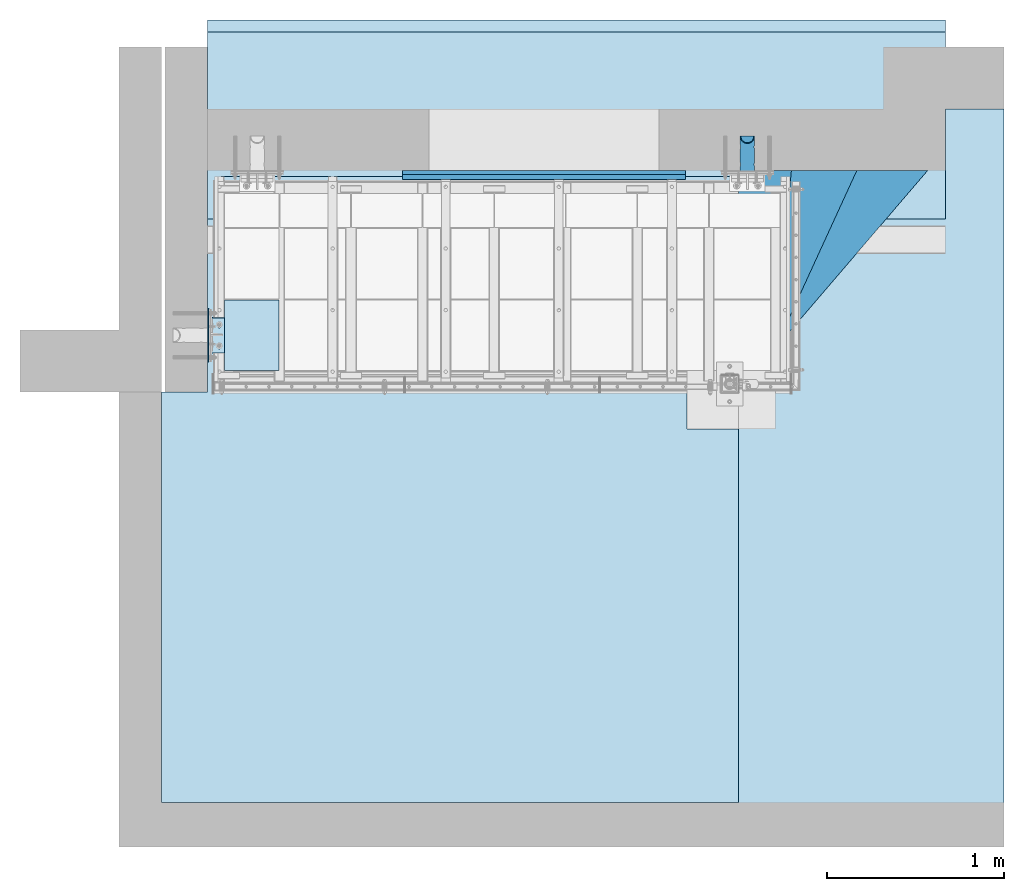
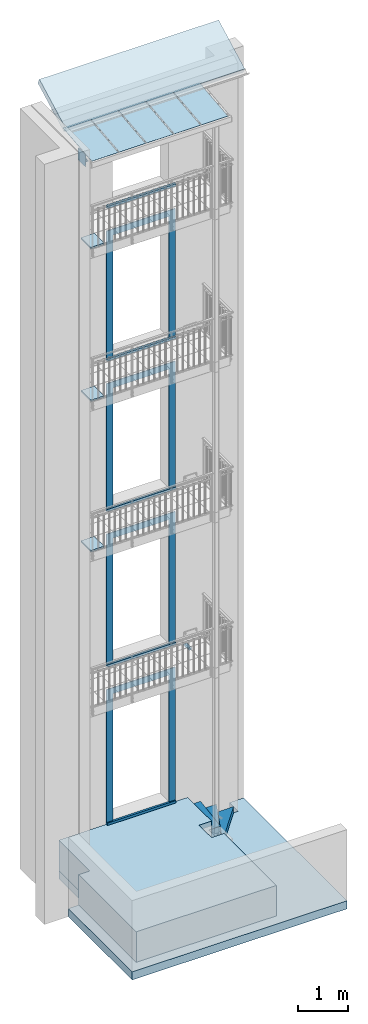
# One storey, part 54 of 162: 15 slabs, 10 plates, 1 beam, 19 openings.
"""IFC2X3 building model written with IfcOpenShell, lengths in millimetres."""

import ifcopenshell
import ifcopenshell.guid

model = None  # the IFC model being written
_history = None  # IfcOwnerHistory: only IFC2X3 demands one
_inside = {}  # id of a spatial element -> (the spatial element, [elements in it])
_under = {}  # id of a project, library or spatial element -> (it, [spatial elements below it])
_declared = {}  # id of a project -> (the project, [libraries it declares])
_typed = {}  # id of a type object -> (the type object, [elements of that type])
_made_of = {}  # id of a material, layer set ... -> (it, [elements and type objects made of it])


def new_model(schema):
    """Start an empty IFC model of exactly this schema.

    Asked for "IFC4X3", IfcOpenShell would pick the latest addendum, in which some entities
    have other attributes; the version numbers below select the first issue.
    IFC2X3 requires an IfcOwnerHistory on every rooted entity: one is made here for all.
    """
    global model, _history
    if schema == "IFC4X3":
        model = ifcopenshell.file(schema_version=(4, 3, 0, 0))
    else:
        model = ifcopenshell.file(schema=schema)
    _inside.clear()
    _under.clear()
    _declared.clear()
    _typed.clear()
    _made_of.clear()
    _history = None
    if model.schema == "IFC2X3":
        org = make("IfcOrganization", Name="unknown")
        user = make(
            "IfcPersonAndOrganization",
            ThePerson=make("IfcPerson", FamilyName="unknown"),
            TheOrganization=org,
        )
        app = make(
            "IfcApplication",
            ApplicationDeveloper=org,
            Version="unknown",
            ApplicationFullName="unknown",
            ApplicationIdentifier="unknown",
        )
        _history = make(
            "IfcOwnerHistory",
            OwningUser=user,
            OwningApplication=app,
            ChangeAction="ADDED",
            CreationDate=0,
        )
    return model


def make(cls, **values):
    """One entity of the class cls with the attributes given. An attribute that is None is left unset."""
    return model.create_entity(
        cls, **{name: value for name, value in values.items() if value is not None}
    )


def entity(cls, *values):
    """Any entity or typed value of the class cls, its attributes in the order of the schema. None: left unset."""
    e = model.create_entity(cls)
    for i, value in enumerate(values):
        if value is not None:
            e[i] = value
    return e


def rooted(cls, **values):
    """An entity with a GlobalId (a new one), such as an element, a storey or a relation."""
    return make(cls, GlobalId=ifcopenshell.guid.new(), OwnerHistory=_history, **values)


def si_unit(unit_type, name, prefix=None):
    """IfcSIUnit, for example si_unit("LENGTHUNIT", "METRE", prefix="MILLI")."""
    return make("IfcSIUnit", UnitType=unit_type, Prefix=prefix, Name=name)


def converted_unit(unit_type, name, factor, base, dimensions=None, offset=None):
    """IfcConversionBasedUnit, such as the inch: factor (a typed value) times the base unit."""
    return make(
        "IfcConversionBasedUnit"
        if offset is None
        else "IfcConversionBasedUnitWithOffset",
        ConversionOffset=offset,
        Dimensions=None
        if dimensions is None
        else entity("IfcDimensionalExponents", *dimensions),
        UnitType=unit_type,
        Name=name,
        ConversionFactor=make(
            "IfcMeasureWithUnit", ValueComponent=factor, UnitComponent=base
        ),
    )


def assignment(units):
    """IfcUnitAssignment: the units of a project."""
    return None if units is None else make("IfcUnitAssignment", Units=units)


def point(xyz):
    """IfcCartesianPoint."""
    return None if xyz is None else make("IfcCartesianPoint", Coordinates=xyz)


def direction(xyz):
    """IfcDirection."""
    return None if xyz is None else make("IfcDirection", DirectionRatios=xyz)


def frame(location, z_axis=None, x_axis=None):
    """IfcAxis2Placement3D, a coordinate frame: its origin and axes. An axis left out is left unset."""
    return make(
        "IfcAxis2Placement3D",
        Location=point(location),
        Axis=direction(z_axis),
        RefDirection=direction(x_axis),
    )


def frame_2d(location, x_axis=None):
    """IfcAxis2Placement2D, a coordinate frame in the plane: its origin and x axis."""
    return make(
        "IfcAxis2Placement2D", Location=point(location), RefDirection=direction(x_axis)
    )


def origin():
    """The frame at (0, 0, 0) with its axes left unset."""
    return frame((0.0, 0.0, 0.0))


def origin_with_axes():
    """The frame at (0, 0, 0) with the z axis (0, 0, 1) and the x axis (1, 0, 0) written out."""
    return frame((0.0, 0.0, 0.0), z_axis=(0.0, 0.0, 1.0), x_axis=(1.0, 0.0, 0.0))


def origin_2d():
    """The frame at (0, 0) in the plane with its x axis left unset."""
    return frame_2d((0.0, 0.0))


def place(relative_to, where):
    """IfcLocalPlacement: puts the frame where relative to a parent placement (None: the world)."""
    return make(
        "IfcLocalPlacement", PlacementRelTo=relative_to, RelativePlacement=where
    )


def context(
    kind, dimensions, precision=None, world=None, true_north=None, identifier=None
):
    """IfcGeometricRepresentationContext, for example the 3D "Model" context."""
    return make(
        "IfcGeometricRepresentationContext",
        ContextIdentifier=identifier,
        ContextType=kind,
        CoordinateSpaceDimension=dimensions,
        Precision=precision,
        WorldCoordinateSystem=world,
        TrueNorth=true_north,
    )


def project(units=None, contexts=None):
    """IfcProject with its units and contexts."""
    return rooted(
        "IfcProject",
        Name="project",
        RepresentationContexts=contexts,
        UnitsInContext=assignment(units),
    )


def spatial(cls, under=None, at=None, **own):
    """A site, building, storey or space (cls), placed at a placement, below another one or the project."""
    s = rooted(cls, ObjectPlacement=at, **own)
    if under is not None:
        _under.setdefault(under.id(), (under, []))[1].append(s)
    return s


def polyline(points):
    """IfcPolyline through the points."""
    return make("IfcPolyline", Points=[point(p) for p in points])


def circle_curve(where, radius):
    """IfcCircle in the frame where."""
    return make("IfcCircle", Position=where, Radius=radius)


def line_curve(start, along, magnitude):
    """IfcLine from a point along a vector."""
    return make(
        "IfcLine",
        Pnt=point(start),
        Dir=make("IfcVector", Orientation=direction(along), Magnitude=magnitude),
    )


def trimmed(basis, trim1, trim2, sense, master):
    """IfcTrimmedCurve: the piece of a basis curve between two trims."""
    return make(
        "IfcTrimmedCurve",
        BasisCurve=basis,
        Trim1=trim1,
        Trim2=trim2,
        SenseAgreement=sense,
        MasterRepresentation=master,
    )


def segment(curve, same_sense, transition):
    """IfcCompositeCurveSegment."""
    return make(
        "IfcCompositeCurveSegment",
        Transition=transition,
        SameSense=same_sense,
        ParentCurve=curve,
    )


def composite_curve(segments, self_intersect=None):
    """IfcCompositeCurve: segments joined end to end."""
    return make("IfcCompositeCurve", Segments=segments, SelfIntersect=self_intersect)


def profile(cls, at=None, kind="AREA", **sizes):
    """A parametric profile (cls). Its sizes go by their IFC names, for example OverallWidth=200.0."""
    return make(cls, ProfileType=kind, Position=at, **sizes)


def circle(**sizes):
    """IfcCircleProfileDef."""
    return profile("IfcCircleProfileDef", **sizes)


def hollow_circle(**sizes):
    """IfcCircleHollowProfileDef."""
    return profile("IfcCircleHollowProfileDef", **sizes)


def outline(outer, holes=None, kind="AREA"):
    """IfcArbitraryClosedProfileDef: a profile drawn as a closed curve; with holes, ...WithVoids."""
    if holes is None:
        return make("IfcArbitraryClosedProfileDef", ProfileType=kind, OuterCurve=outer)
    return make(
        "IfcArbitraryProfileDefWithVoids",
        ProfileType=kind,
        OuterCurve=outer,
        InnerCurves=holes,
    )


def extrude(swept, where, along, depth):
    """IfcExtrudedAreaSolid: the profile swept, set in the frame where, extruded along a direction by depth."""
    return make(
        "IfcExtrudedAreaSolid",
        SweptArea=swept,
        Position=where,
        ExtrudedDirection=direction(along),
        Depth=depth,
    )


def shape(context_of_items, identifier, shape_type, items):
    """IfcShapeRepresentation: the items that make up one representation, for example the "Body"."""
    return make(
        "IfcShapeRepresentation",
        ContextOfItems=context_of_items,
        RepresentationIdentifier=identifier,
        RepresentationType=shape_type,
        Items=items,
    )


def material(Name=None, Category=None):
    """IfcMaterial."""
    return make("IfcMaterial", Name=Name, Category=Category)


def layer(
    of_material, thickness, ventilated=None, Name=None, Category=None, Priority=None
):
    """IfcMaterialLayer: one layer of a wall or slab, of a material (None: an air gap)."""
    return make(
        "IfcMaterialLayer",
        Material=of_material,
        LayerThickness=thickness,
        IsVentilated=ventilated,
        Name=Name,
        Category=Category,
        Priority=Priority,
    )


def layer_set(layers, Name=None):
    """IfcMaterialLayerSet."""
    return make("IfcMaterialLayerSet", MaterialLayers=layers, LayerSetName=Name)


def made_of(thing, what):
    """Note that an element or type object is made of a material, layer set ...; save() writes the relation."""
    if what is not None:
        _made_of.setdefault(what.id(), (what, []))[1].append(thing)
    return thing


def element(
    cls,
    number,
    at=None,
    inside=None,
    cuts=None,
    type_object=None,
    material=None,
    context=None,
    identifier="Body",
    shape_type=None,
    held_by="IfcProductDefinitionShape",
    body=None,
    shapes=None,
    **own,
):
    """One element of the class cls, such as IfcWall. Its Tag is "e" and its number.

    at: its placement. inside: the storey or other place that contains it. cuts: it is an
    opening in that element (IfcRelVoidsElement). A single representation is given by context,
    identifier, shape_type and body (its items); several are given by shapes. held_by: the class
    of the entity that holds the representations. save() writes the other relations.
    """
    e = rooted(cls, Tag="e%d" % number, ObjectPlacement=at, **own)
    if body is not None:
        shapes = [shape(context, identifier, shape_type, body)]
    if shapes is not None:
        e.Representation = make(held_by, Representations=shapes)
    if inside is not None:
        _inside.setdefault(inside.id(), (inside, []))[1].append(e)
    if cuts is not None:
        rooted(
            "IfcRelVoidsElement", RelatingBuildingElement=cuts, RelatedOpeningElement=e
        )
    if type_object is not None:
        _typed.setdefault(type_object.id(), (type_object, []))[1].append(e)
    return made_of(e, material)


def aggregate(whole, parts):
    """IfcRelAggregates: a whole, such as a stair, and the parts it consists of."""
    return rooted("IfcRelAggregates", RelatingObject=whole, RelatedObjects=parts)


def save(model, path):
    """Write the relations noted so far, then the file.

    IfcRelAggregates (storeys below a building ...), IfcRelContainedInSpatialStructure (elements
    in a storey), IfcRelDefinesByType, IfcRelAssociatesMaterial and IfcRelDeclares: one each for
    every whole, place, type object, material and project.
    """
    for whole, parts in _under.values():
        aggregate(whole, parts)
    for where, things in _inside.values():
        rooted(
            "IfcRelContainedInSpatialStructure",
            RelatedElements=things,
            RelatingStructure=where,
        )
    for kind, things in _typed.values():
        rooted("IfcRelDefinesByType", RelatedObjects=things, RelatingType=kind)
    for what, things in _made_of.values():
        rooted("IfcRelAssociatesMaterial", RelatedObjects=things, RelatingMaterial=what)
    for by, libraries in _declared.values():
        rooted("IfcRelDeclares", RelatingContext=by, RelatedDefinitions=libraries)
    model.write(path)


model = new_model("IFC2X3")

# Units and contexts
model_context = context("Model", 3, precision=1e-09, world=origin_with_axes())
ifc_project = project(units=[si_unit("LENGTHUNIT", "METRE", prefix="MILLI"), si_unit("AREAUNIT", "SQUARE_METRE"), si_unit("VOLUMEUNIT", "CUBIC_METRE"), converted_unit("PLANEANGLEUNIT", "DEGREE", entity("IfcPlaneAngleMeasure", 0.01745329), si_unit("PLANEANGLEUNIT", "RADIAN"), dimensions=[0, 0, 0, 0, 0, 0, 0])], contexts=[model_context])

# Site, building, storey
site_placement = place(None, origin_with_axes())
site = spatial("IfcSite", under=ifc_project, at=site_placement, Name="Hermannstra?e 1a, 60318 Frankfurt", CompositionType="ELEMENT")
building_placement = place(site_placement, origin_with_axes())
building = spatial("IfcBuilding", under=site, at=building_placement, Name="Struktur 1", CompositionType="ELEMENT")
storey_placement = place(building_placement, origin_with_axes())
storey = spatial("IfcBuildingStorey", under=building, at=storey_placement, Name="Default Storey", CompositionType="ELEMENT", Elevation=0.0)

# Beam, openings
ifc_material_1 = material(Name="S235JR")
beam_placement = place(None, frame((5573.310071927, 2730.610081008, 3645.0), z_axis=(0.0, 1.0, 0.0), x_axis=(0.0, 0.0, 1.0)))
beam = element("IfcBeam", 1, at=beam_placement, inside=storey, material=ifc_material_1, Name="-", ObjectType="-", context=model_context, shape_type="SweptSolid", body=[
    extrude(hollow_circle(Radius=41.25, WallThickness=5.0, at=origin_2d()), origin(), (0.0, 0.0, 1.0), 200.0),
])
opening_1_placement = place(beam_placement, frame((-36.368270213, -141.35, 236.366855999), z_axis=(0.0, -1.0, 0.0), x_axis=(0.707106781, 0.0, -0.707106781)))
element("IfcOpeningElement", 2, at=opening_1_placement, cuts=beam, ObjectType="Opening", context=model_context, shape_type="SweptSolid", body=[
    extrude(outline(polyline([(0.0, 0.0), (179.585201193, 0.0), (64.987133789, 114.598067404), (0.0, 0.0)])), origin(), (0.0, 0.0, -1.0), 282.7),
])
opening_2_placement = place(beam_placement, frame((0.0, -32.727655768, 100.0), z_axis=(0.0, -1.0, 0.0), x_axis=(0.0, 0.0, -1.0)))
element("IfcOpeningElement", 3, at=opening_2_placement, cuts=beam, ObjectType="Opening", context=model_context, shape_type="SweptSolid", body=[
    extrude(circle(Radius=15.001, at=frame_2d((60.0, 0.0), x_axis=(1.0, 0.0))), origin(), (0.0, 0.0, 1.0), 9.022344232),
])
opening_3_placement = place(beam_placement, frame((0.0, -32.727655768, 100.0), z_axis=(0.0, -1.0, 0.0), x_axis=(0.0, 0.0, -1.0)))
element("IfcOpeningElement", 4, at=opening_3_placement, cuts=beam, ObjectType="Opening", context=model_context, shape_type="SweptSolid", body=[
    extrude(circle(Radius=15.001, at=frame_2d((-40.0, 0.0), x_axis=(1.0, 0.0))), origin(), (0.0, 0.0, 1.0), 9.022344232),
])
opening_4_placement = place(beam_placement, frame((0.0, 32.727655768, 55.001), z_axis=(0.0, -1.0, 0.0), x_axis=(1.0, 0.0, 0.0)))
element("IfcOpeningElement", 5, at=opening_4_placement, cuts=beam, ObjectType="Opening", context=model_context, shape_type="SweptSolid", body=[
    extrude(circle(Radius=15.001, at=frame_2d((0.0, -15.001), x_axis=(1.0, 0.0))), origin(), (0.0, 0.0, -1.0), 9.022344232),
])
opening_5_placement = place(beam_placement, frame((0.0, 32.727655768, 155.001), z_axis=(0.0, -1.0, 0.0), x_axis=(1.0, 0.0, 0.0)))
element("IfcOpeningElement", 6, at=opening_5_placement, cuts=beam, ObjectType="Opening", context=model_context, shape_type="SweptSolid", body=[
    extrude(circle(Radius=15.001, at=frame_2d((0.0, -15.001), x_axis=(1.0, 0.0))), origin(), (0.0, 0.0, -1.0), 9.022344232),
])

# Plates
ifc_material_2 = material(Name="BWS")
ifc_layer_1 = layer(ifc_material_2, 40.0)
ifc_layer_set_1 = layer_set([ifc_layer_1], Name="BWS")
for number, where, z_axis, x_axis in (
    (7, (2526.80936482, 2005.609373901, 7774.0), (0.0, 0.0, -1.0), (1.0, 0.0, 0.0)),
    (8, (2526.80936482, 2005.609373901, 11473.999), (0.0, 0.0, -1.0), (1.0, 0.0, 0.0)),
    (9, (2526.80936482, 2005.609373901, 15230.999), (0.0, 0.0, -1.0), (1.0, 0.0, 0.0)),
):
    element("IfcPlate", number, at=place(None, frame(where, z_axis=z_axis, x_axis=x_axis)), inside=storey, material=ifc_layer_set_1, Name="-", ObjectType="-", context=model_context, shape_type="SweptSolid", body=[
        extrude(outline(polyline([(91.0, 0.0), (400.0, 0.0), (400.0, 400.0), (91.0, 400.0), (91.0, 0.0)])), origin_with_axes(), (0.0, 0.0, 1.0), 40.0),
    ])

# Plate, openings
ifc_material_3 = material(Name="Thermostop")
ifc_layer_2 = layer(ifc_material_3, 6.0)
ifc_layer_set_2 = layer_set([ifc_layer_2], Name="Thermostop")
plate_1_placement = place(None, frame((2523.30936482, 1805.610081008, 17360.045442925), z_axis=(1.0, 0.0, 0.0), x_axis=(0.0, 1.0, 0.0)))
plate_1 = element("IfcPlate", 10, at=plate_1_placement, inside=storey, material=ifc_layer_set_2, Name="-", ObjectType="-", context=model_context, shape_type="SweptSolid", body=[
    extrude(outline(polyline([(-150.0, -150.0), (150.0, -150.0), (150.0, 150.0), (-150.0, 150.0), (-150.0, -150.0)])), origin_with_axes(), (0.0, 0.0, 1.0), 6.0),
])
opening_6_placement = place(plate_1_placement, frame((0.0, 0.0, -0.5), z_axis=(0.0, 0.0, 1.0), x_axis=(1.0, 0.0, 0.0)))
element("IfcOpeningElement", 11, at=opening_6_placement, cuts=plate_1, ObjectType="Opening", context=model_context, shape_type="SweptSolid", body=[
    extrude(circle(Radius=10.001, at=frame_2d((125.0, 125.0), x_axis=(1.0, 0.0))), origin(), (0.0, 0.0, 1.0), 7.0),
])
opening_7_placement = place(plate_1_placement, frame((0.0, 0.0, -0.5), z_axis=(0.0, 0.0, 1.0), x_axis=(1.0, 0.0, 0.0)))
element("IfcOpeningElement", 12, at=opening_7_placement, cuts=plate_1, ObjectType="Opening", context=model_context, shape_type="SweptSolid", body=[
    extrude(circle(Radius=10.001, at=frame_2d((-125.0, 125.0), x_axis=(1.0, 0.0))), origin(), (0.0, 0.0, 1.0), 7.0),
])
opening_8_placement = place(plate_1_placement, frame((0.0, 0.0, -0.5), z_axis=(0.0, 0.0, 1.0), x_axis=(1.0, 0.0, 0.0)))
element("IfcOpeningElement", 13, at=opening_8_placement, cuts=plate_1, ObjectType="Opening", context=model_context, shape_type="SweptSolid", body=[
    extrude(circle(Radius=10.001, at=frame_2d((125.0, -125.0), x_axis=(1.0, 0.0))), origin(), (0.0, 0.0, 1.0), 7.0),
])
opening_9_placement = place(plate_1_placement, frame((0.0, 0.0, -0.5), z_axis=(0.0, 0.0, 1.0), x_axis=(1.0, 0.0, 0.0)))
element("IfcOpeningElement", 14, at=opening_9_placement, cuts=plate_1, ObjectType="Opening", context=model_context, shape_type="SweptSolid", body=[
    extrude(circle(Radius=10.001, at=frame_2d((-125.0, -125.0), x_axis=(1.0, 0.0))), origin(), (0.0, 0.0, 1.0), 7.0),
])

ifc_layer_3 = layer(ifc_material_1, 10.0)
ifc_layer_set_3 = layer_set([ifc_layer_3], Name="S235JR")
plate_2_placement = place(None, frame((2579.309364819, 1806.132723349, 17300.072833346), z_axis=(0.0, -0.104528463, 0.994521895), x_axis=(0.0, 0.994521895, 0.104528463)))
plate_2 = element("IfcPlate", 15, at=plate_2_placement, inside=storey, material=ifc_layer_set_3, Name="-", ObjectType="-", context=model_context, shape_type="SweptSolid", body=[
    extrude(outline(polyline([(-100.0, -40.0), (100.0, -40.0), (100.0, 40.0), (-100.0, 40.0), (-100.0, -40.0)])), origin_with_axes(), (0.0, 0.0, 1.0), 10.0),
])
opening_10_placement = place(plate_2_placement, frame((0.0, -10.0, -0.5), z_axis=(0.0, 0.0, 1.0), x_axis=(1.0, 0.0, 0.0)))
element("IfcOpeningElement", 16, at=opening_10_placement, cuts=plate_2, ObjectType="Opening", context=model_context, shape_type="SweptSolid", body=[
    extrude(circle(Radius=7.501, at=frame_2d((60.0, 0.0), x_axis=(1.0, 0.0))), origin(), (0.0, 0.0, 1.0), 11.0),
])
opening_11_placement = place(plate_2_placement, frame((0.0, -10.0, -0.5), z_axis=(0.0, 0.0, 1.0), x_axis=(1.0, 0.0, 0.0)))
element("IfcOpeningElement", 17, at=opening_11_placement, cuts=plate_2, ObjectType="Opening", context=model_context, shape_type="SweptSolid", body=[
    extrude(circle(Radius=7.501, at=frame_2d((-60.0, 0.0), x_axis=(1.0, 0.0))), origin(), (0.0, 0.0, 1.0), 11.0),
])
opening_12_placement = place(plate_2_placement, frame((-60.0, -10.0, -0.5), z_axis=(0.0, 0.0, 1.0), x_axis=(1.0, 0.0, 0.0)))
element("IfcOpeningElement", 18, at=opening_12_placement, cuts=plate_2, ObjectType="Opening", context=model_context, shape_type="SweptSolid", body=[
    extrude(outline(composite_curve([segment(trimmed(line_curve((110.5, -8.001), (1.0, 0.0), 19.0), [point((110.5, -8.001))], [point((129.5, -8.001))], True, "CARTESIAN"), True, "CONTINUOUS"), segment(trimmed(circle_curve(frame_2d((129.5, 0.0), x_axis=(1.0, 0.0)), 8.001), [point((129.5, -8.001))], [point((129.5, 8.001))], True, "CARTESIAN"), True, "CONTINUOUS"), segment(trimmed(line_curve((129.5, 8.001), (-1.0, 0.0), 19.0), [point((129.5, 8.001))], [point((110.5, 8.001))], True, "CARTESIAN"), True, "CONTINUOUS"), segment(trimmed(circle_curve(frame_2d((110.5, 0.0), x_axis=(1.0, 0.0)), 8.001), [point((110.5, 8.001))], [point((110.5, -8.001))], True, "CARTESIAN"), True, "CONTINUOUS")], self_intersect=False)), origin(), (0.0, 0.0, 1.0), 11.0),
])
opening_13_placement = place(plate_2_placement, frame((-60.0, -10.0, -0.5), z_axis=(0.0, 0.0, 1.0), x_axis=(1.0, 0.0, 0.0)))
element("IfcOpeningElement", 19, at=opening_13_placement, cuts=plate_2, ObjectType="Opening", context=model_context, shape_type="SweptSolid", body=[
    extrude(outline(composite_curve([segment(trimmed(line_curve((-9.5, -8.001), (1.0, 0.0), 19.0), [point((-9.5, -8.001))], [point((9.5, -8.001))], True, "CARTESIAN"), True, "CONTINUOUS"), segment(trimmed(circle_curve(frame_2d((9.5, 0.0), x_axis=(1.0, 0.0)), 8.001), [point((9.5, -8.001))], [point((9.5, 8.001))], True, "CARTESIAN"), True, "CONTINUOUS"), segment(trimmed(line_curve((9.5, 8.001), (-1.0, 0.0), 19.0), [point((9.5, 8.001))], [point((-9.5, 8.001))], True, "CARTESIAN"), True, "CONTINUOUS"), segment(trimmed(circle_curve(frame_2d((-9.5, 0.0), x_axis=(1.0, 0.0)), 8.001), [point((-9.5, 8.001))], [point((-9.5, -8.001))], True, "CARTESIAN"), True, "CONTINUOUS")], self_intersect=False)), origin(), (0.0, 0.0, 1.0), 11.0),
])

# Plates
ifc_material_4 = material(Name="Glas")
ifc_layer_4 = layer(ifc_material_4, 8.76)
ifc_layer_set_4 = layer_set([ifc_layer_4], Name="Glas")
for number, where, z_axis, x_axis in (
    (20, (2598.80936482, 2692.714729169, 17515.687045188), (0.0, 0.104528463, -0.994521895), (1.0, 0.0, 0.0)),
    (21, (3237.80936482, 2692.714729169, 17515.687045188), (0.0, 0.104528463, -0.994521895), (1.0, 0.0, 0.0)),
    (22, (3876.80936482, 2692.714729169, 17515.687045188), (0.0, 0.104528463, -0.994521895), (1.0, 0.0, 0.0)),
    (23, (4515.80936482, 2692.714729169, 17515.687045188), (0.0, 0.104528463, -0.994521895), (1.0, 0.0, 0.0)),
    (24, (5154.80936482, 2692.714729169, 17515.687045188), (0.0, 0.104528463, -0.994521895), (1.0, 0.0, 0.0)),
):
    element("IfcPlate", number, at=place(None, frame(where, z_axis=z_axis, x_axis=x_axis)), inside=storey, material=ifc_layer_set_4, Name="-", ObjectType="-", context=model_context, shape_type="SweptSolid", body=[
        extrude(outline(polyline([(0.0, -10.0), (623.0, -10.0), (623.0, 1154.99558045), (0.0, 1154.99558045), (0.0, -10.0)])), origin_with_axes(), (0.0, 0.0, 1.0), 8.76),
    ])

# Slab, opening
ifc_material_5 = material(Name="C25/30")
ifc_layer_5 = layer(ifc_material_5, 20.0)
ifc_layer_set_5 = layer_set([ifc_layer_5], Name="C25/30")
slab_1_placement = place(None, frame((4423.30836482, 2735.609373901, 5552.4995), z_axis=(0.0, -1.0, 0.0), x_axis=(1.0, 0.0, 0.0)))
slab_1 = element("IfcSlab", 25, at=slab_1_placement, inside=storey, material=ifc_layer_set_5, Name="-", ObjectType="-", context=model_context, shape_type="SweptSolid", body=[
    extrude(outline(polyline([(-800.0, -1597.5005), (800.0, -1597.5005), (800.0, 1597.5005), (-800.0, 1597.5005), (-800.0, -1597.5005)])), origin_with_axes(), (0.0, 0.0, 1.0), 20.0),
])
opening_14_placement = place(slab_1_placement, frame((0.0, 0.0, -0.1), z_axis=(0.0, 0.0, 1.0), x_axis=(1.0, 0.0, 0.0)))
element("IfcOpeningElement", 26, at=opening_14_placement, cuts=slab_1, ObjectType="Opening", context=model_context, shape_type="SweptSolid", body=[
    extrude(outline(polyline([(-650.002, -1825.587801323), (650.001, -1825.587801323), (650.001, 1447.5025), (-650.002, 1447.5025), (-650.002, -1825.587801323)])), origin(), (0.0, 0.0, 1.0), 20.2),
])

slab_2_placement = place(None, frame((4423.30836482, 2735.609373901, 9314.9995), z_axis=(0.0, -1.0, 0.0), x_axis=(1.0, 0.0, 0.0)))
slab_2 = element("IfcSlab", 27, at=slab_2_placement, inside=storey, material=ifc_layer_set_5, Name="-", ObjectType="-", context=model_context, shape_type="SweptSolid", body=[
    extrude(outline(polyline([(-800.0, -1535.0005), (800.0, -1535.0005), (800.0, 1535.0005), (-800.0, 1535.0005), (-800.0, -1535.0005)])), origin_with_axes(), (0.0, 0.0, 1.0), 20.0),
])
opening_15_placement = place(slab_2_placement, frame((0.0, 0.0, -0.1), z_axis=(0.0, 0.0, 1.0), x_axis=(1.0, 0.0, 0.0)))
element("IfcOpeningElement", 28, at=opening_15_placement, cuts=slab_2, ObjectType="Opening", context=model_context, shape_type="SweptSolid", body=[
    extrude(outline(polyline([(-650.002, -1726.636255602), (650.001, -1726.636255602), (650.001, 1385.0025), (-650.002, 1385.0025), (-650.002, -1726.636255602)])), origin(), (0.0, 0.0, 1.0), 20.2),
])

slab_3_placement = place(None, frame((4423.30836482, 2735.609373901, 13043.4995), z_axis=(0.0, -1.0, 0.0), x_axis=(1.0, 0.0, 0.0)))
slab_3 = element("IfcSlab", 29, at=slab_3_placement, inside=storey, material=ifc_layer_set_5, Name="-", ObjectType="-", context=model_context, shape_type="SweptSolid", body=[
    extrude(outline(polyline([(-800.0, -1563.5005), (800.0, -1563.5005), (800.0, 1563.5005), (-800.0, 1563.5005), (-800.0, -1563.5005)])), origin_with_axes(), (0.0, 0.0, 1.0), 20.0),
])
opening_16_placement = place(slab_3_placement, frame((0.0, 0.0, -0.1), z_axis=(0.0, 0.0, 1.0), x_axis=(1.0, 0.0, 0.0)))
element("IfcOpeningElement", 30, at=opening_16_placement, cuts=slab_3, ObjectType="Opening", context=model_context, shape_type="SweptSolid", body=[
    extrude(outline(polyline([(-650.002, -1771.978279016), (650.001, -1771.978279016), (650.001, 1413.5025), (-650.002, 1413.5025), (-650.002, -1771.978279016)])), origin(), (0.0, 0.0, 1.0), 20.2),
])

# Slabs
ifc_layer_6 = layer(ifc_material_5, 50.0)
ifc_layer_set_6 = layer_set([ifc_layer_6], Name="C25/30")
for number, where, z_axis, x_axis in (
    (31, (4423.30836482, 2735.609373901, 11450.0), (0.0, -1.0, 0.0), (1.0, 0.0, 0.0)),
    (32, (4423.30836482, 2735.609373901, 15207.0), (0.0, -1.0, 0.0), (1.0, 0.0, 0.0)),
    (33, (4423.30836482, 2735.609373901, 3925.0), (0.0, -1.0, 0.0), (1.0, 0.0, 0.0)),
    (34, (4423.30836482, 2735.609373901, 29.999), (0.0, -1.0, 0.0), (1.0, 0.0, 0.0)),
):
    element("IfcSlab", number, at=place(None, frame(where, z_axis=z_axis, x_axis=x_axis)), inside=storey, material=ifc_layer_set_6, Name="-", ObjectType="-", context=model_context, shape_type="SweptSolid", body=[
        extrude(outline(polyline([(-800.0, -30.0), (800.0, -30.0), (800.0, 30.0), (-800.0, 30.0), (-800.0, -30.0)])), origin_with_axes(), (0.0, 0.0, 1.0), 50.0),
    ])

# Slab, openings
ifc_layer_7 = layer(ifc_material_5, 750.0)
ifc_layer_set_7 = layer_set([ifc_layer_7], Name="C25/30")
slab_4_placement = place(None, frame((3893.30786482, 950.608873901, -750.0), z_axis=(0.0, 0.0, 1.0), x_axis=(1.0, 0.0, 0.0)))
slab_4 = element("IfcSlab", 35, at=slab_4_placement, inside=storey, material=ifc_layer_set_7, Name="-", ObjectType="-", context=model_context, shape_type="SweptSolid", body=[
    extrude(outline(polyline([(-1630.0005, -1785.0005), (1630.0005, -1785.0005), (1630.0005, 1785.0005), (-1630.0005, 1785.0005), (-1630.0005, -1785.0005)])), origin_with_axes(), (0.0, 0.0, 1.0), 750.0),
])
opening_17_placement = place(slab_4_placement, frame((0.0, 0.0, -0.1), z_axis=(0.0, 0.0, 1.0), x_axis=(1.0, 0.0, 0.0)))
element("IfcOpeningElement", 36, at=opening_17_placement, cuts=slab_4, ObjectType="Opening", context=model_context, shape_type="SweptSolid", body=[
    extrude(outline(polyline([(-2393.858873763, 534.9995), (-1369.9985, 534.9995), (-1369.9985, 2309.86964466), (-2393.858873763, 2309.86964466), (-2393.858873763, 534.9995)])), origin(), (0.0, 0.0, 1.0), 750.2),
])
opening_18_placement = place(slab_4_placement, frame((0.0, 0.0, -0.1), z_axis=(0.0, 0.0, 1.0), x_axis=(1.0, 0.0, 0.0)))
element("IfcOpeningElement", 37, at=opening_18_placement, cuts=slab_4, ObjectType="Opening", context=model_context, shape_type="SweptSolid", body=[
    extrude(outline(polyline([(1339.9995, 324.9995), (1840.0015, 324.9995), (1840.0015, 825.0015), (1339.9995, 825.0015), (1339.9995, 324.9995)])), origin(), (0.0, 0.0, 1.0), 750.2),
])

# Slabs
ifc_layer_8 = layer(ifc_material_5, 550.0)
ifc_layer_set_8 = layer_set([ifc_layer_8], Name="C25/30")
slab_5_placement = place(None, frame((5523.30836482, 2735.609373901, -750.0), z_axis=(0.0, 0.0, 1.0), x_axis=(1.0, 0.0, 0.0)))
element("IfcSlab", 38, at=slab_5_placement, inside=storey, material=ifc_layer_set_8, Name="-", ObjectType="-", context=model_context, shape_type="SweptSolid", body=[
    extrude(outline(polyline([(0.0, -960.0), (210.0, -960.0), (298.572323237, 0.0), (0.0, 0.0), (0.0, -960.0)])), origin_with_axes(), (0.0, 0.0, 1.0), 550.0),
])
ifc_layer_9 = layer(ifc_material_5, 350.0)
ifc_layer_set_9 = layer_set([ifc_layer_9], Name="C25/30")
slab_6_placement = place(None, frame((6191.117654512, 2735.609373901, -750.0), z_axis=(0.0, 0.0, 1.0), x_axis=(1.0, 0.0, 0.0)))
element("IfcSlab", 39, at=slab_6_placement, inside=storey, material=ifc_layer_set_9, Name="-", ObjectType="-", context=model_context, shape_type="SweptSolid", body=[
    extrude(outline(polyline([(0.0, 0.0), (-369.236966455, 0.0), (-457.809289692, -960.0), (-440.309289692, -960.0), (0.0, 0.0)])), origin_with_axes(), (0.0, 0.0, 1.0), 350.0),
])
ifc_layer_10 = layer(ifc_material_5, 150.0)
ifc_layer_set_10 = layer_set([ifc_layer_10], Name="C25/30")
slab_7_placement = place(None, frame((5750.80836482, 1775.609373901, -750.0), z_axis=(0.0, 0.0, 1.0), x_axis=(1.0, 0.0, 0.0)))
element("IfcSlab", 40, at=slab_7_placement, inside=storey, material=ifc_layer_set_10, Name="-", ObjectType="-", context=model_context, shape_type="SweptSolid", body=[
    extrude(outline(polyline([(0.0, 0.0), (17.5, 0.0), (840.090991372, 960.0), (440.309289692, 960.0), (0.0, 0.0)])), origin_with_axes(), (0.0, 0.0, 1.0), 150.0),
])
ifc_layer_11 = layer(ifc_material_5, 200.0)
ifc_layer_set_11 = layer_set([ifc_layer_11], Name="C25/30")
slab_8_placement = place(None, frame((7023.30736482, 3085.610373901, -950.0), z_axis=(0.0, 0.0, 1.0), x_axis=(1.0, 0.0, 0.0)))
element("IfcSlab", 41, at=slab_8_placement, inside=storey, material=ifc_layer_set_11, Name="-", ObjectType="-", context=model_context, shape_type="SweptSolid", body=[
    extrude(outline(polyline([(0.0, 0.0), (-330.0, 0.0), (-330.0, -350.001), (-4499.998, -350.001), (-4499.999, -1600.001), (-5000.0, -1600.002923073), (-5000.0, -4170.002), (0.001063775, -4170.002), (0.0, 0.0)])), origin_with_axes(), (0.0, 0.0, 1.0), 200.0),
])

# Slab, opening
slab_9_placement = place(None, frame((4423.30836482, 2735.609373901, 1692.4995), z_axis=(0.0, -1.0, 0.0), x_axis=(1.0, 0.0, 0.0)))
slab_9 = element("IfcSlab", 42, at=slab_9_placement, inside=storey, material=ifc_layer_set_5, Name="-", ObjectType="-", context=model_context, shape_type="SweptSolid", body=[
    extrude(outline(polyline([(-800.0, -1632.5005), (800.0, -1632.5005), (800.0, 1632.5005), (-800.0, 1632.5005), (-800.0, -1632.5005)])), origin_with_axes(), (0.0, 0.0, 1.0), 20.0),
])
opening_19_placement = place(slab_9_placement, frame((0.0, 0.0, -0.1), z_axis=(0.0, 0.0, 1.0), x_axis=(1.0, 0.0, 0.0)))
element("IfcOpeningElement", 43, at=opening_19_placement, cuts=slab_9, ObjectType="Opening", context=model_context, shape_type="SweptSolid", body=[
    extrude(outline(polyline([(-650.002, -2070.247779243), (650.001, -2070.247779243), (650.001, 1482.5025), (-650.002, 1482.5025), (-650.002, -2070.247779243)])), origin(), (0.0, 0.0, 1.0), 20.2),
])

# Slabs
slab_10_placement = place(None, frame((4423.30836482, 2735.609373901, 7750.0), z_axis=(0.0, -1.0, 0.0), x_axis=(1.0, 0.0, 0.0)))
element("IfcSlab", 44, at=slab_10_placement, inside=storey, material=ifc_layer_set_6, Name="-", ObjectType="-", context=model_context, shape_type="SweptSolid", body=[
    extrude(outline(polyline([(-800.0, -30.0), (800.0, -30.0), (800.0, 30.0), (-800.0, 30.0), (-800.0, -30.0)])), origin_with_axes(), (0.0, 0.0, 1.0), 50.0),
])
ifc_layer_12 = layer(ifc_material_5, 4170.0)
ifc_layer_set_12 = layer_set([ifc_layer_12], Name="C25/30")
slab_11_placement = place(None, frame((2523.30836482, 3024.908692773, 17894.935470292), z_axis=(1.0, 0.0, 0.0), x_axis=(0.0, 0.882947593, 0.469471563)))
element("IfcSlab", 45, at=slab_11_placement, inside=storey, material=ifc_layer_set_12, Name="-", ObjectType="-", context=model_context, shape_type="SweptSolid", body=[
    extrude(outline(polyline([(-598.378670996, -72.5), (598.378670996, -72.5), (598.378670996, 72.5), (-598.378670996, 72.5), (-598.378670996, -72.5)])), origin_with_axes(), (0.0, 0.0, 1.0), 4170.0),
])

save(model, "model.ifc")
